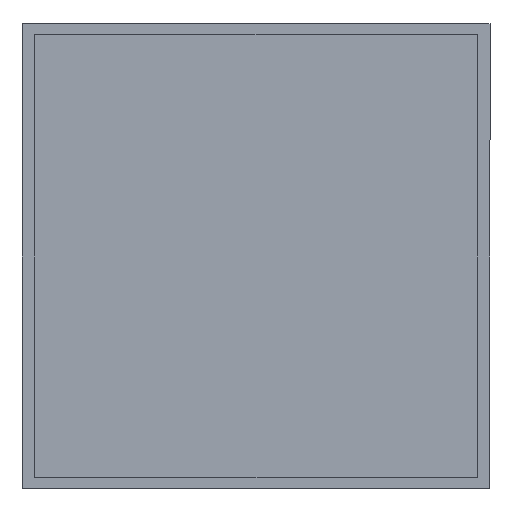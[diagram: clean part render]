
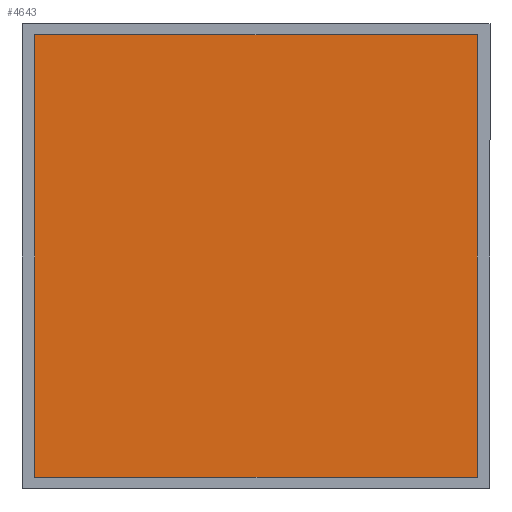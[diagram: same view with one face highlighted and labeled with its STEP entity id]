
A CAD part, front view. The second image highlights one B-rep face of the part: STEP entity #4643.
In plain terms, the highlighted planar face has unit normal (0, -1, 0).
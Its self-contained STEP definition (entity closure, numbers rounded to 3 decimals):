
#231 = ORIENTED_EDGE ( 'NONE', *, *, #1295, .F. ) ;
#327 = DIRECTION ( 'NONE',  ( 1., 0., 0. ) ) ;
#361 = DIRECTION ( 'NONE',  ( 0., 0., 1. ) ) ;
#660 = VECTOR ( 'NONE', #4295, 1000. ) ;
#837 = DIRECTION ( 'NONE',  ( 0., 1., 0. ) ) ;
#958 = ORIENTED_EDGE ( 'NONE', *, *, #6320, .F. ) ;
#1033 = LINE ( 'NONE', #1588, #1547 ) ;
#1124 = ORIENTED_EDGE ( 'NONE', *, *, #2906, .F. ) ;
#1295 = EDGE_CURVE ( 'NONE', #2207, #5996, #4314, .T. ) ;
#1517 = DIRECTION ( 'NONE',  ( -1., 0., 0. ) ) ;
#1547 = VECTOR ( 'NONE', #1517, 1000. ) ;
#1588 = CARTESIAN_POINT ( 'NONE',  ( -29.237, -5.415, -11.533 ) ) ;
#1663 = CARTESIAN_POINT ( 'NONE',  ( 10.763, -5.415, -11.533 ) ) ;
#1831 = VECTOR ( 'NONE', #6592, 1000. ) ;
#1998 = CARTESIAN_POINT ( 'NONE',  ( -29.237, -5.415, -11.533 ) ) ;
#2091 = FACE_OUTER_BOUND ( 'NONE', #2513, .T. ) ;
#2207 = VERTEX_POINT ( 'NONE', #5315 ) ;
#2513 = EDGE_LOOP ( 'NONE', ( #1124, #5621, #231, #958 ) ) ;
#2647 = CARTESIAN_POINT ( 'NONE',  ( 10.763, -5.415, -11.533 ) ) ;
#2906 = EDGE_CURVE ( 'NONE', #5166, #6688, #4963, .T. ) ;
#3088 = CARTESIAN_POINT ( 'NONE',  ( -29.237, -5.415, 28.467 ) ) ;
#3618 = AXIS2_PLACEMENT_3D ( 'NONE', #3794, #837, #361 ) ;
#3794 = CARTESIAN_POINT ( 'NONE',  ( -29.237, -5.415, 28.467 ) ) ;
#4071 = EDGE_CURVE ( 'NONE', #5996, #5166, #1033, .T. ) ;
#4295 = DIRECTION ( 'NONE',  ( 0., 0., 1. ) ) ;
#4314 = LINE ( 'NONE', #2647, #1831 ) ;
#4643 = ADVANCED_FACE ( 'NONE', ( #2091 ), #5390, .F. ) ;
#4963 = LINE ( 'NONE', #6575, #660 ) ;
#5166 = VERTEX_POINT ( 'NONE', #1998 ) ;
#5315 = CARTESIAN_POINT ( 'NONE',  ( 10.763, -5.415, 28.467 ) ) ;
#5390 = PLANE ( 'NONE',  #3618 ) ;
#5621 = ORIENTED_EDGE ( 'NONE', *, *, #4071, .F. ) ;
#5957 = VECTOR ( 'NONE', #327, 1000. ) ;
#5996 = VERTEX_POINT ( 'NONE', #1663 ) ;
#6320 = EDGE_CURVE ( 'NONE', #6688, #2207, #6953, .T. ) ;
#6575 = CARTESIAN_POINT ( 'NONE',  ( -29.237, -5.415, -11.533 ) ) ;
#6592 = DIRECTION ( 'NONE',  ( 0., 0., -1. ) ) ;
#6688 = VERTEX_POINT ( 'NONE', #6753 ) ;
#6753 = CARTESIAN_POINT ( 'NONE',  ( -29.237, -5.415, 28.467 ) ) ;
#6953 = LINE ( 'NONE', #3088, #5957 ) ;
